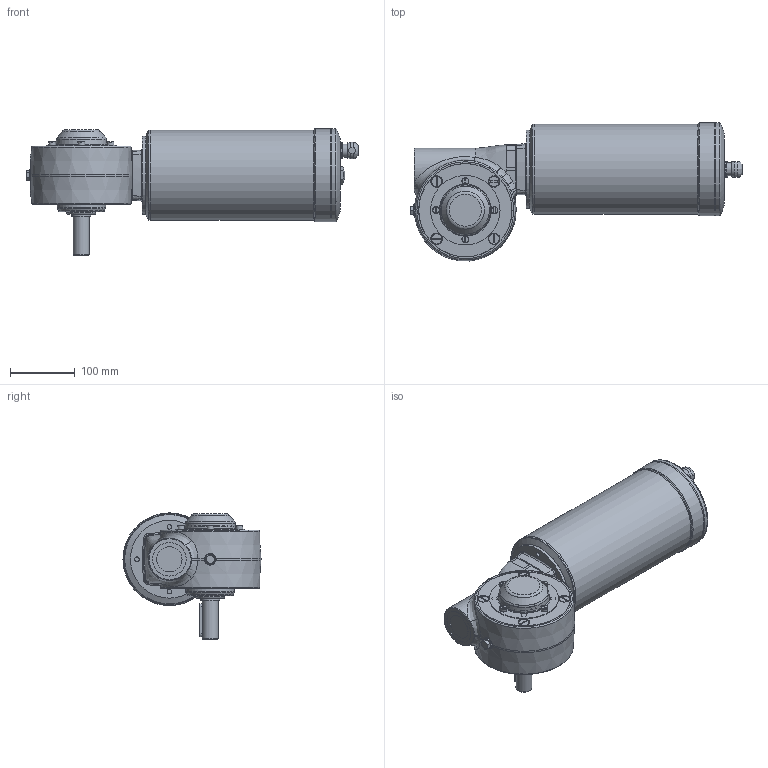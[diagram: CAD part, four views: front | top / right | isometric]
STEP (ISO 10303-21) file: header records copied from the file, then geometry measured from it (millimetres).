
FILE_DESCRIPTION( ( 'Unknown' ), '1' );
FILE_NAME( 'E:/services/configuratordownloads/customers/CLEANGEARTECH/VFN/download/65815CE3A7266A8EFCA324E58DD4E2/STEP/65815CE3A7266A8EFCA324E58DD4E2.3d.stp', 'Unknown', ( 'Unknown' ), ( 'Unknown' ), 'PSStep 10.1', 'Unknown', ' ' );
FILE_SCHEMA( ( 'AUTOMOTIVE_DESIGN { 1 0 10303 214 1 1 1 1 }' ) );
Length unit declared in the file: millimetre
Products named in the file (1): N638800
Bounding box: 511.8 x 212.76 x 194.7 mm (x, y, z)
Volume: 6815537.2 mm3; surface area: 331115.2 mm2
Topology: 1 solids, 23 shells, 587 faces, 1402 edges, 901 vertices
Faces by surface type: plane 214, cylinder 143, cone 128, bspline 60, torus 41, sphere 1
Full cylindrical faces by diameter (mm): 4.917 x9, 6.647 x21, 7 x5, 8 x9, 8.5 x4, 9 x4, 10.5 x4, 13 x4, 13.4 x1, 14 x4, 16.662 x1, 18 x1, 19 x1, 20 x1, 24 x1, 25 x4, 29.5 x1, 35 x1, 39 x1, 45 x2, 46 x2, 47 x1, 47.5 x2, 52 x1, 62 x2, 68 x1, 75 x2, 107 x1, 120 x1, 138.98 x1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
Entity records: 26310 total; most frequent: CARTESIAN_POINT 10212, DIRECTION 2361, ORIENTED_EDGE 2016, AXIS2_PLACEMENT_3D 1052, EDGE_CURVE 1008, EDGE_LOOP 872, VERTEX_POINT 762, FACE_OUTER_BOUND 713
